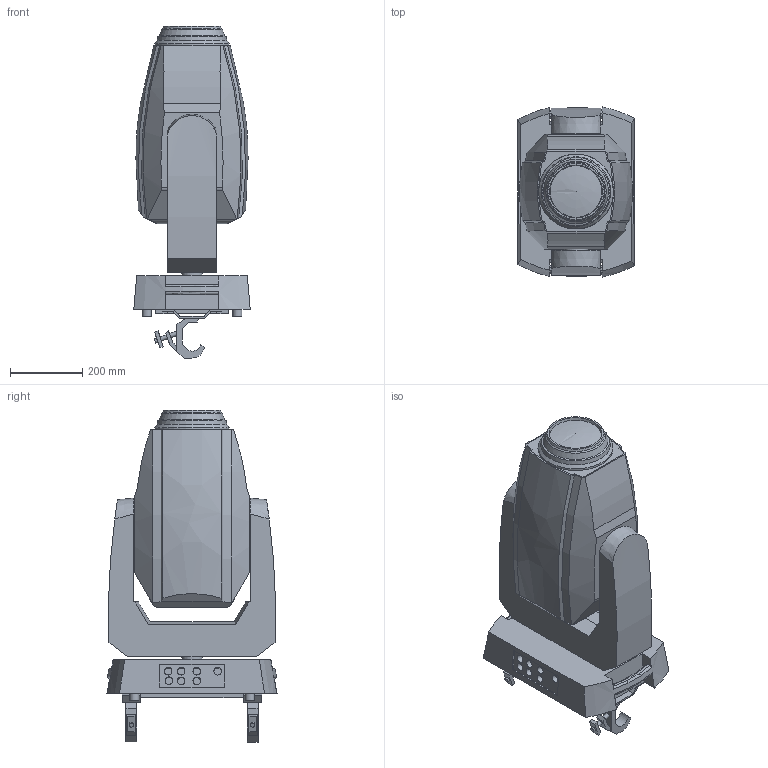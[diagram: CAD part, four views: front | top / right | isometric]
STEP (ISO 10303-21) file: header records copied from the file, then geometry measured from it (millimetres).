
FILE_DESCRIPTION( ( 'Unknown' ), '1' );
FILE_NAME( 'K:/Robin DL/04 Robin DL7S/06 3D_Symbols/3D_Robin DL7S_00.stp', 'Unknown', ( 'Unknown' ), ( 'Unknown' ), 'PSStep 17.0.49', 'Unknown', ' ' );
FILE_SCHEMA( ( 'AUTOMOTIVE_DESIGN { 1 0 10303 214 1 1 1 1 }' ) );
Length unit declared in the file: millimetre
Products named in the file (7): Omega_SlimClamp_00; Omega+SlimClamp; Clamp Doughty Slimline QT; Assem1; zákl dl7s; ram DL7S; hlava dl7s
Assembly tree (7 placements, depth 3):
  Assem1
    zákl dl7s
    ram DL7S
    hlava dl7s
    Omega_SlimClamp_00  x2
      Omega+SlimClamp
      Clamp Doughty Slimline QT
Bounding box: 322 x 470.55 x 918.71 mm (x, y, z)
Volume: 62260996.2 mm3; surface area: 1718381.9 mm2
Topology: 7 solids, 7 shells, 277 faces, 709 edges, 474 vertices
Faces by surface type: plane 176, cylinder 52, bspline 29, cone 12, torus 8
Full cylindrical faces by diameter (mm): 11 x4, 12 x16, 13 x2, 21 x7, 26 x4, 40 x1, 58 x1, 60 x1, 65 x2
Entity records: 9475 total; most frequent: CARTESIAN_POINT 2482, ORIENTED_EDGE 1050, DIRECTION 930, EDGE_CURVE 525, VERTEX_POINT 374, AXIS2_PLACEMENT_3D 334, EDGE_LOOP 308, LINE 262
